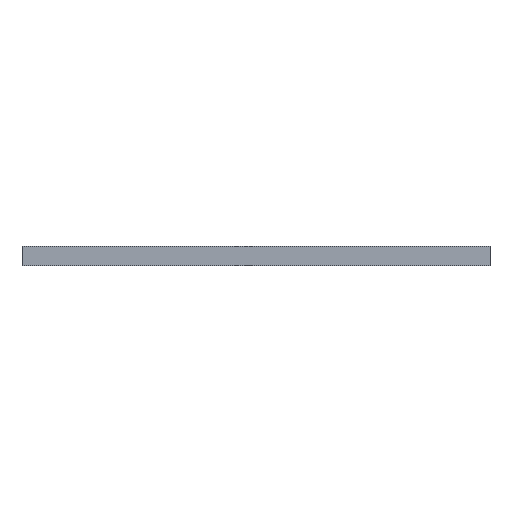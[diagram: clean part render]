
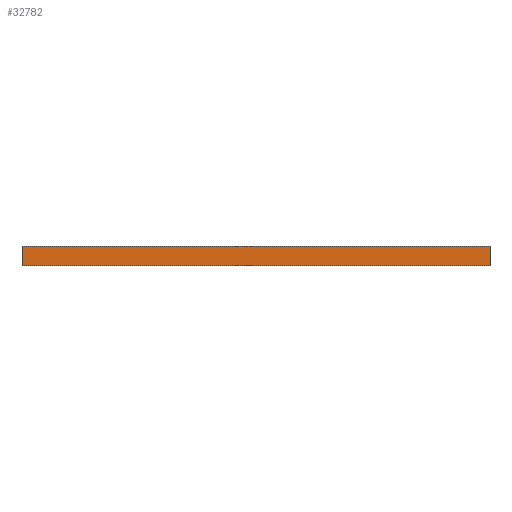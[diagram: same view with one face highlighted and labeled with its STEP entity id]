
A CAD part, front view. The second image highlights one B-rep face of the part: STEP entity #32782.
In plain terms, the highlighted planar face has unit normal (0, -1, 0).
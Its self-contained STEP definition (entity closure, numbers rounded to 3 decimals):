
#192=FACE_OUTER_BOUND('',#2261,.T.);
#2261=EDGE_LOOP('',(#21332,#21333,#21334,#21335));
#4547=LINE('',#45891,#9260);
#4548=LINE('',#45893,#9261);
#4549=LINE('',#45895,#9262);
#4550=LINE('',#45896,#9263);
#9260=VECTOR('',#36993,10.);
#9261=VECTOR('',#36994,10.);
#9262=VECTOR('',#36995,10.);
#9263=VECTOR('',#36996,10.);
#13973=VERTEX_POINT('',#45889);
#13974=VERTEX_POINT('',#45890);
#13975=VERTEX_POINT('',#45892);
#13976=VERTEX_POINT('',#45894);
#16619=EDGE_CURVE('',#13973,#13974,#4547,.T.);
#16620=EDGE_CURVE('',#13974,#13975,#4548,.T.);
#16621=EDGE_CURVE('',#13976,#13975,#4549,.T.);
#16622=EDGE_CURVE('',#13973,#13976,#4550,.T.);
#21332=ORIENTED_EDGE('',*,*,#16619,.T.);
#21333=ORIENTED_EDGE('',*,*,#16620,.T.);
#21334=ORIENTED_EDGE('',*,*,#16621,.F.);
#21335=ORIENTED_EDGE('',*,*,#16622,.F.);
#30713=PLANE('',#34865);
#32782=ADVANCED_FACE('',(#192),#30713,.T.);
#34865=AXIS2_PLACEMENT_3D('',#45888,#36991,#36992);
#36991=DIRECTION('center_axis',(0.,-1.,0.));
#36992=DIRECTION('ref_axis',(-1.,0.,0.));
#36993=DIRECTION('',(-1.,0.,0.));
#36994=DIRECTION('',(0.,0.,-1.));
#36995=DIRECTION('',(-1.,0.,0.));
#36996=DIRECTION('',(0.,0.,-1.));
#45888=CARTESIAN_POINT('Origin',(133.369,-384.,8.));
#45889=CARTESIAN_POINT('',(133.369,-384.,8.));
#45890=CARTESIAN_POINT('',(-57.387,-384.,8.));
#45891=CARTESIAN_POINT('',(133.369,-384.,8.));
#45892=CARTESIAN_POINT('',(-57.387,-384.,0.));
#45893=CARTESIAN_POINT('',(-57.387,-384.,8.));
#45894=CARTESIAN_POINT('',(133.369,-384.,0.));
#45895=CARTESIAN_POINT('',(133.369,-384.,0.));
#45896=CARTESIAN_POINT('',(133.369,-384.,8.));
